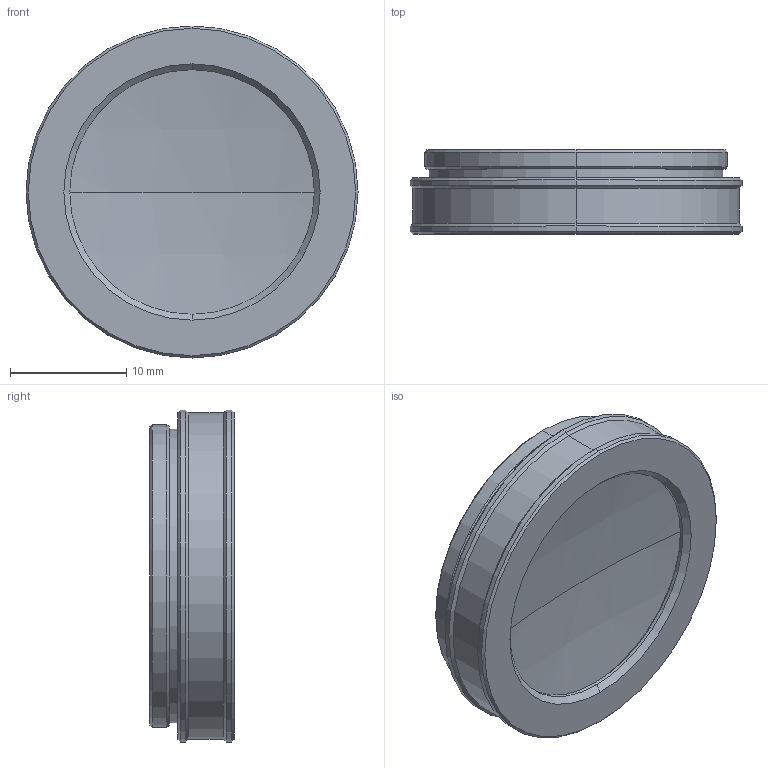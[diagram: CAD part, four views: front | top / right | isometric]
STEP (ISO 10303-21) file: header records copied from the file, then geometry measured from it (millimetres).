
FILE_DESCRIPTION (( 'STEP AP214' ), '1' );
FILE_NAME ('RK-Z133F15.STEP', '2020-05-23T01:27:28', ( '微软用户' ), ( '微软中国' ), 'SwSTEP 2.0', 'SolidWorks 2018', '' );
FILE_SCHEMA (( 'AUTOMOTIVE_DESIGN' ));
Length unit declared in the file: millimetre
Products named in the file (1): RK-Z133F15
Bounding box: 28.5 x 7.21 x 28.5 mm (x, y, z)
Volume: 3436.2 mm3; surface area: 3667.8 mm2
Topology: 3 solids, 3 shells, 95 faces, 202 edges, 121 vertices
Faces by surface type: cone 41, cylinder 30, plane 18, sphere 6
Entity records: 3684 total; most frequent: DIRECTION 505, CARTESIAN_POINT 443, ORIENTED_EDGE 404, AXIS2_PLACEMENT_3D 211, EDGE_CURVE 202, VERTEX_POINT 121, CIRCLE 115, EDGE_LOOP 107
